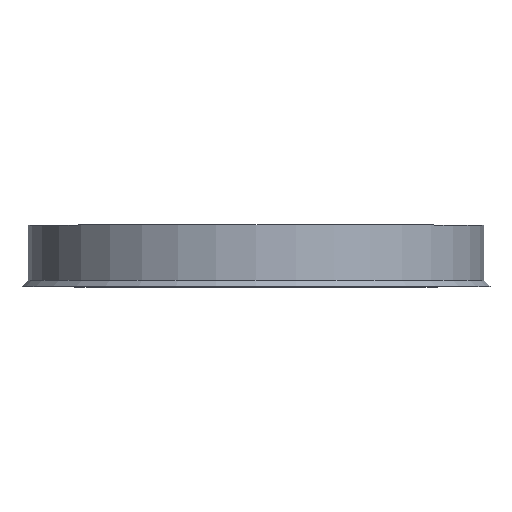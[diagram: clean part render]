
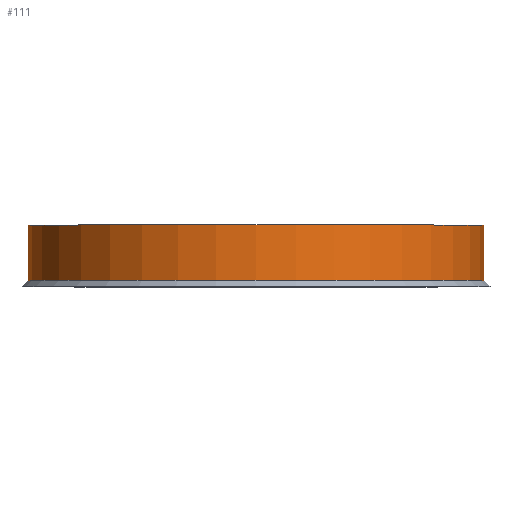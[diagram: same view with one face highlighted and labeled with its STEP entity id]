
A CAD part, top view. The second image highlights one B-rep face of the part: STEP entity #111.
In plain terms, the highlighted cylindrical face has radius 37.05 mm (diameter 74.1 mm), a full revolution.
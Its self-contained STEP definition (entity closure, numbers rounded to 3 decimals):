
#20=CYLINDRICAL_SURFACE('',#149,37.05);
#27=FACE_OUTER_BOUND('',#36,.T.);
#36=EDGE_LOOP('',(#97,#98,#99,#100,#101));
#41=LINE('',#215,#46);
#46=VECTOR('',#186,37.05);
#50=CIRCLE('',#141,37.05);
#53=CIRCLE('',#147,37.05);
#54=CIRCLE('',#148,37.05);
#58=VERTEX_POINT('',#199);
#61=VERTEX_POINT('',#209);
#62=VERTEX_POINT('',#210);
#68=EDGE_CURVE('',#58,#58,#50,.T.);
#72=EDGE_CURVE('',#61,#62,#53,.T.);
#74=EDGE_CURVE('',#62,#61,#54,.T.);
#75=EDGE_CURVE('',#58,#62,#41,.T.);
#97=ORIENTED_EDGE('',*,*,#68,.F.);
#98=ORIENTED_EDGE('',*,*,#75,.T.);
#99=ORIENTED_EDGE('',*,*,#74,.T.);
#100=ORIENTED_EDGE('',*,*,#72,.T.);
#101=ORIENTED_EDGE('',*,*,#75,.F.);
#111=ADVANCED_FACE('',(#27),#20,.T.);
#141=AXIS2_PLACEMENT_3D('',#200,#166,#167);
#147=AXIS2_PLACEMENT_3D('',#211,#179,#180);
#148=AXIS2_PLACEMENT_3D('',#213,#182,#183);
#149=AXIS2_PLACEMENT_3D('',#214,#184,#185);
#166=DIRECTION('center_axis',(0.,1.,0.));
#167=DIRECTION('ref_axis',(-1.,0.,0.));
#179=DIRECTION('center_axis',(0.,1.,0.));
#180=DIRECTION('ref_axis',(-1.,0.,0.));
#182=DIRECTION('center_axis',(0.,1.,0.));
#183=DIRECTION('ref_axis',(-1.,0.,0.));
#184=DIRECTION('center_axis',(0.,1.,0.));
#185=DIRECTION('ref_axis',(-1.,0.,0.));
#186=DIRECTION('',(0.,-1.,0.));
#199=CARTESIAN_POINT('',(37.05,10.,0.));
#200=CARTESIAN_POINT('Origin',(0.,10.,0.));
#209=CARTESIAN_POINT('',(-37.05,1.,0.));
#210=CARTESIAN_POINT('',(37.05,1.,0.));
#211=CARTESIAN_POINT('Origin',(0.,1.,0.));
#213=CARTESIAN_POINT('Origin',(0.,1.,0.));
#214=CARTESIAN_POINT('Origin',(0.,0.,0.));
#215=CARTESIAN_POINT('',(37.05,0.,0.));
